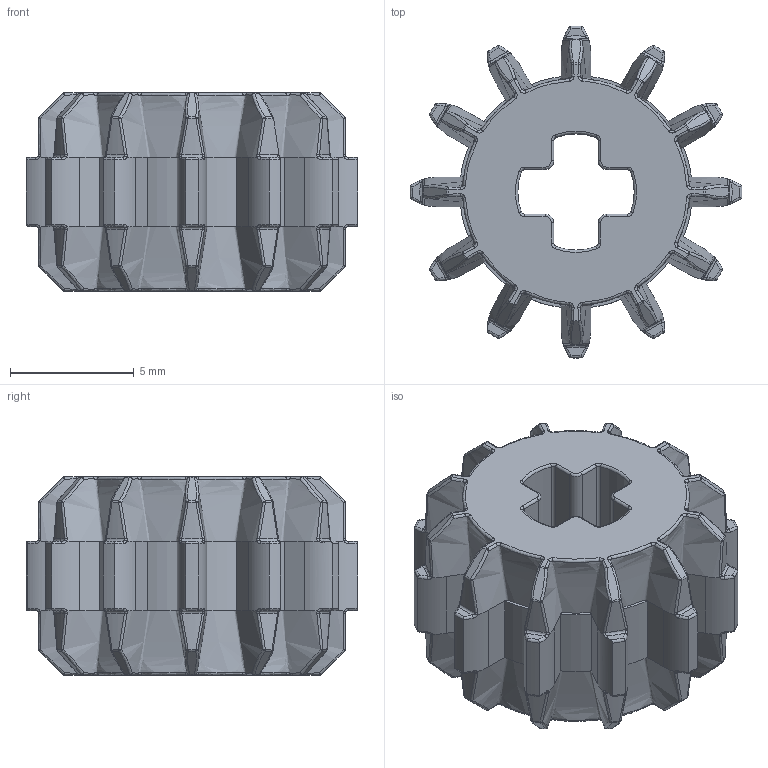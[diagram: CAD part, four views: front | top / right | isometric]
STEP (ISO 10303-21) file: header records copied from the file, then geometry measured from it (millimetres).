
FILE_DESCRIPTION(/* description */ (''),/* implementation_level */ '2;1');
FILE_NAME(/* name */ '32270Technic Gear 12 Tooth Double Bevel v1.step',/* time_stamp */ '2026-07-09T23:53:34-06:00',/* author */ (''),/* organization */ (''),/* preprocessor_version */ 'ST-DEVELOPER v20.1',/* originating_system */ 'Autodesk Translation Framework v15.8.0.0',/* authorisation */ '');
FILE_SCHEMA (('AUTOMOTIVE_DESIGN { 1 0 10303 214 3 1 1 }'));
Length unit declared in the file: millimetre
Products named in the file (1): 2026-07-09-23-53-33-119
Bounding box: 13.4 x 13.4 x 8 mm (x, y, z)
Volume: 573.8 mm3; surface area: 773.2 mm2
Topology: 1 solids, 1 shells, 810 faces, 2132 edges, 1308 vertices
Faces by surface type: bspline 333, torus 173, cylinder 105, sphere 93, plane 82, cone 24
Entity records: 37503 total; most frequent: CARTESIAN_POINT 19594, ORIENTED_EDGE 4232, DIRECTION 3363, EDGE_CURVE 2116, AXIS2_PLACEMENT_3D 1569, VERTEX_POINT 1308, CIRCLE 952, EDGE_LOOP 812
